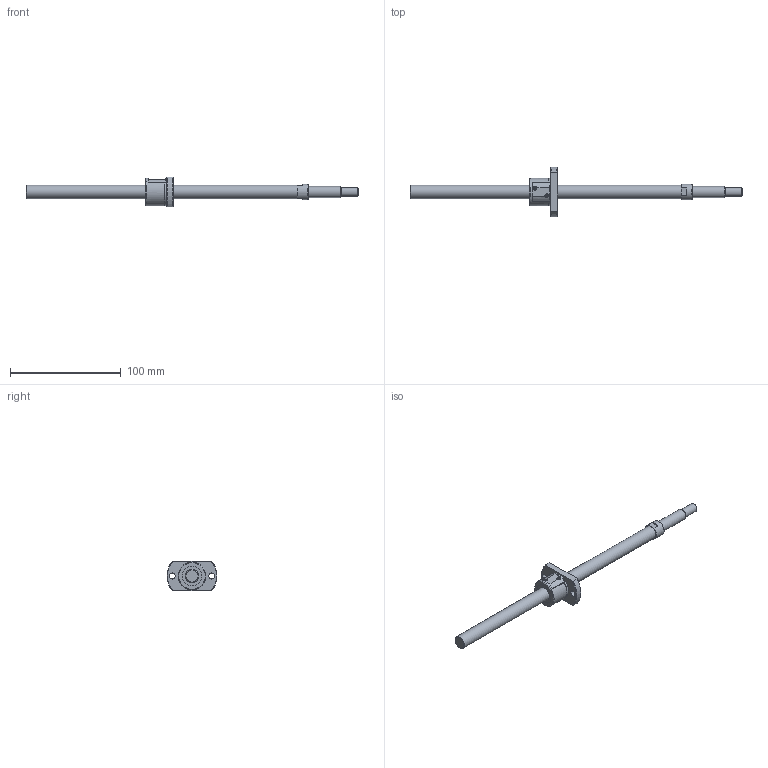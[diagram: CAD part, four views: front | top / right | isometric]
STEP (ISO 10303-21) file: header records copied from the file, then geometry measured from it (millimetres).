
FILE_DESCRIPTION(/* description */ ('STEP AP214'),/* implementation_level */ '2;1');
FILE_NAME(/* name */ 'SG1202-241R300C5A0X(108)',/* time_stamp */ '2026-07-24T15:19:54+02:00',/* author */ ('License CC BY-ND 4.0'),/* organization */ ('CADENAS'),/* preprocessor_version */ 'ST-DEVELOPER v20',/* originating_system */ 'PARTsolutions',/* authorisation */ ' ');
FILE_SCHEMA (('AUTOMOTIVE_DESIGN {1 0 10303 214 3 1 1}'));
Length unit declared in the file: millimetre
Products named in the file (3): SG1202-241R300C5A0X(108); SG1202-241R300C5A_shaft; SG1202 C5_nut
Assembly tree (2 placements, depth 2):
  SG1202-241R300C5A0X(108)
    SG1202-241R300C5A_shaft
    SG1202 C5_nut
Bounding box: 300 x 45 x 27 mm (x, y, z)
Volume: 44756.3 mm3; surface area: 16686.4 mm2
Topology: 2 solids, 2 shells, 72 faces, 177 edges, 116 vertices
Faces by surface type: plane 35, cylinder 23, cone 13, torus 1
Full cylindrical faces by diameter (mm): 5.5 x2, 8 x1, 10 x1, 12 x2, 14 x1, 18 x2, 24.5 x1, 25 x1
Entity records: 2057 total; most frequent: CARTESIAN_POINT 387, DIRECTION 346, ORIENTED_EDGE 292, EDGE_CURVE 146, AXIS2_PLACEMENT_3D 143, VERTEX_POINT 106, EDGE_LOOP 106, FACE_BOUND 106
